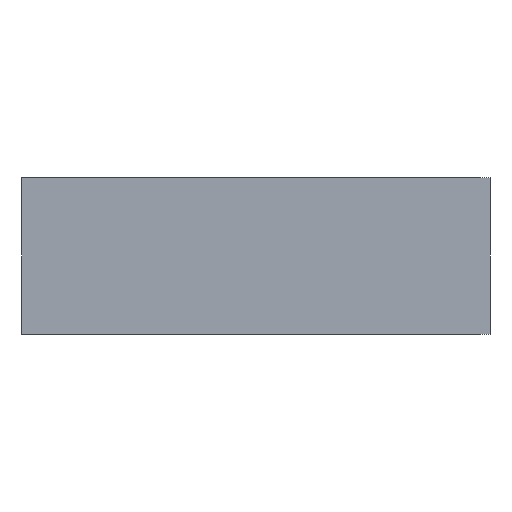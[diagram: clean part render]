
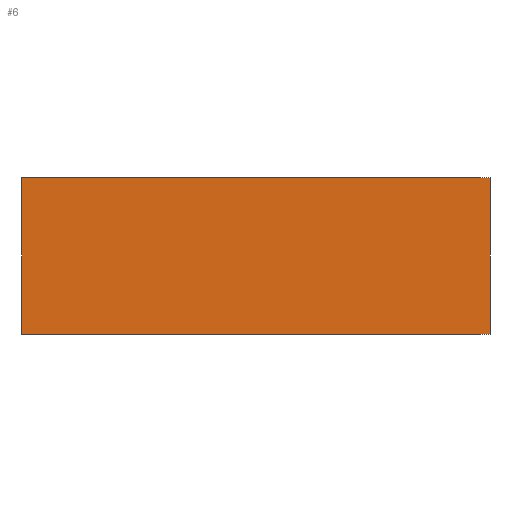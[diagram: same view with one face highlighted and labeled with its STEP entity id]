
A CAD part, front view. The second image highlights one B-rep face of the part: STEP entity #6.
In plain terms, the highlighted planar face has unit normal (0, -1, 0).
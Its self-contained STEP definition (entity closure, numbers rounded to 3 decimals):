
#6 = ADVANCED_FACE ( 'NONE', ( #213 ), #175, .F. ) ;
#17 = AXIS2_PLACEMENT_3D ( 'NONE', #165, #156, #157 ) ;
#29 = EDGE_CURVE ( 'NONE', #188, #197, #250, .T. ) ;
#32 = EDGE_CURVE ( 'NONE', #177, #187, #255, .T. ) ;
#36 = EDGE_CURVE ( 'NONE', #188, #177, #311, .T. ) ;
#45 = EDGE_CURVE ( 'NONE', #197, #187, #313, .T. ) ;
#71 = CARTESIAN_POINT ( 'NONE',  ( 179., 0., 120. ) ) ;
#87 = CARTESIAN_POINT ( 'NONE',  ( 179., 0., 0. ) ) ;
#88 = CARTESIAN_POINT ( 'NONE',  ( -179., 0., 120. ) ) ;
#99 = CARTESIAN_POINT ( 'NONE',  ( -179., 0., 0. ) ) ;
#103 = DIRECTION ( 'NONE',  ( 0., 0., -1. ) ) ;
#108 = CARTESIAN_POINT ( 'NONE',  ( 179., 0., 120. ) ) ;
#121 = DIRECTION ( 'NONE',  ( 0., 0., -1. ) ) ;
#126 = DIRECTION ( 'NONE',  ( 1., 0., 0. ) ) ;
#127 = CARTESIAN_POINT ( 'NONE',  ( -179., 0., 120. ) ) ;
#134 = DIRECTION ( 'NONE',  ( 1., 0., 0. ) ) ;
#137 = CARTESIAN_POINT ( 'NONE',  ( -179., 0., 0. ) ) ;
#143 = CARTESIAN_POINT ( 'NONE',  ( -179., 0., 120. ) ) ;
#156 = DIRECTION ( 'NONE',  ( 0., 1., 0. ) ) ;
#157 = DIRECTION ( 'NONE',  ( -1., 0., 0. ) ) ;
#165 = CARTESIAN_POINT ( 'NONE',  ( -179., 0., 120. ) ) ;
#175 = PLANE ( 'NONE',  #17 ) ;
#177 = VERTEX_POINT ( 'NONE', #99 ) ;
#187 = VERTEX_POINT ( 'NONE', #87 ) ;
#188 = VERTEX_POINT ( 'NONE', #88 ) ;
#197 = VERTEX_POINT ( 'NONE', #71 ) ;
#213 = FACE_OUTER_BOUND ( 'NONE', #229, .T. ) ;
#229 = EDGE_LOOP ( 'NONE', ( #292, #288, #277, #293 ) ) ;
#238 = VECTOR ( 'NONE', #103, 1000. ) ;
#250 = LINE ( 'NONE', #143, #296 ) ;
#255 = LINE ( 'NONE', #137, #310 ) ;
#277 = ORIENTED_EDGE ( 'NONE', *, *, #29, .F. ) ;
#288 = ORIENTED_EDGE ( 'NONE', *, *, #45, .F. ) ;
#292 = ORIENTED_EDGE ( 'NONE', *, *, #32, .T. ) ;
#293 = ORIENTED_EDGE ( 'NONE', *, *, #36, .T. ) ;
#296 = VECTOR ( 'NONE', #134, 1000. ) ;
#310 = VECTOR ( 'NONE', #126, 1000. ) ;
#311 = LINE ( 'NONE', #127, #314 ) ;
#313 = LINE ( 'NONE', #108, #238 ) ;
#314 = VECTOR ( 'NONE', #121, 1000. ) ;
